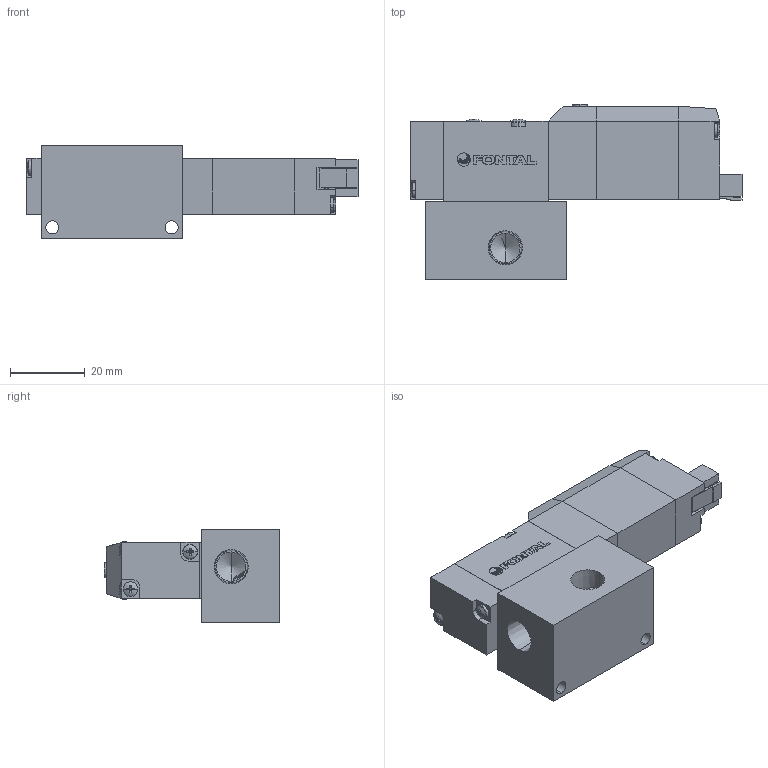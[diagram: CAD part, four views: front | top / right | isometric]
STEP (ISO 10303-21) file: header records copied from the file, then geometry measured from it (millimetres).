
FILE_DESCRIPTION (( 'STEP AP203' ), '1' );
FILE_NAME ('PCS245#-01-#-SP-#.STEP', '2016-02-04T03:52:24', ( 'Sam Lin' ), ( '' ), 'SwSTEP 2.0', 'SolidWorks 2013', '' );
FILE_SCHEMA (( 'CONFIG_CONTROL_DESIGN' ));
Length unit declared in the file: metre
Products named in the file (12): PC-MARK; PC5-6; ISO 7045 - M2.5 x 25; PC5-7; PC5-8; PC5-2; PC5-01-1; ISO 7045 - M2 x 10; PC5-10; PC5-3; PCS245#-01-#-SP-#; PC5-5
Assembly tree (15 placements, depth 2):
  PCS245#-01-#-SP-#
    PC5-2
    ISO 7045 - M2 x 10  x4
    PC5-3
    PC5-5
    PC-MARK
    PC5-6
    ISO 7045 - M2.5 x 25  x2
    PC5-7
    PC5-8
    PC5-01-1
    PC5-10
Bounding box: 89.07 x 47 x 25 mm (x, y, z)
Volume: 44163.1 mm3; surface area: 19058.7 mm2
Topology: 22 solids, 22 shells, 546 faces, 1350 edges, 840 vertices
Faces by surface type: plane 319, cylinder 95, cone 88, bspline 44
Entity records: 12893 total; most frequent: CARTESIAN_POINT 2586, ORIENTED_EDGE 1852, DIRECTION 1819, EDGE_CURVE 926, AXIS2_PLACEMENT_3D 609, VECTOR 601, LINE 601, VERTEX_POINT 600
